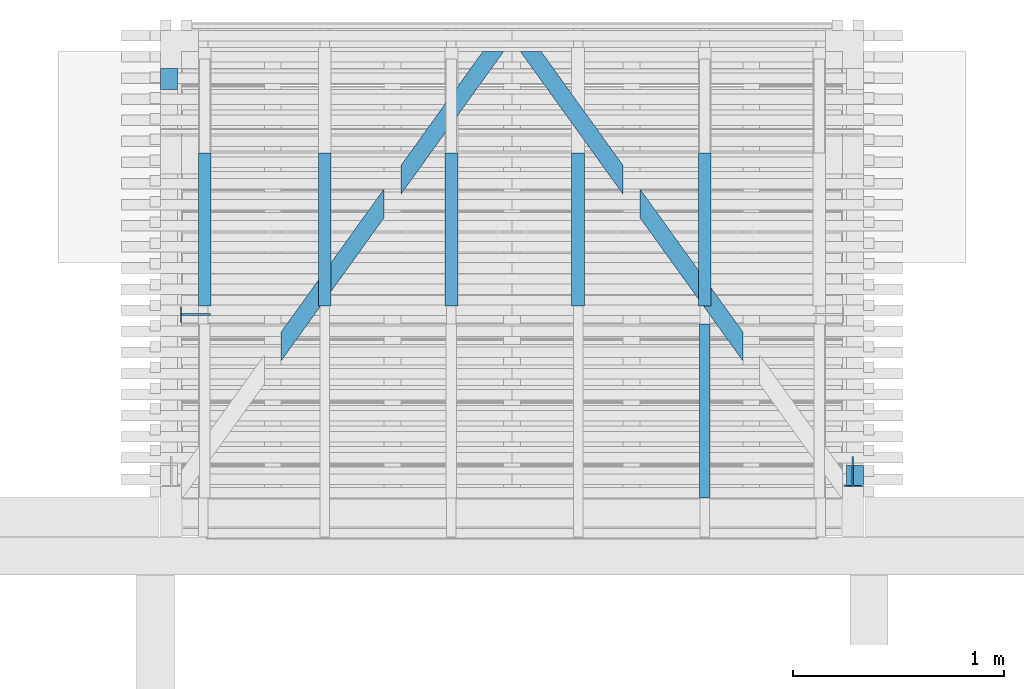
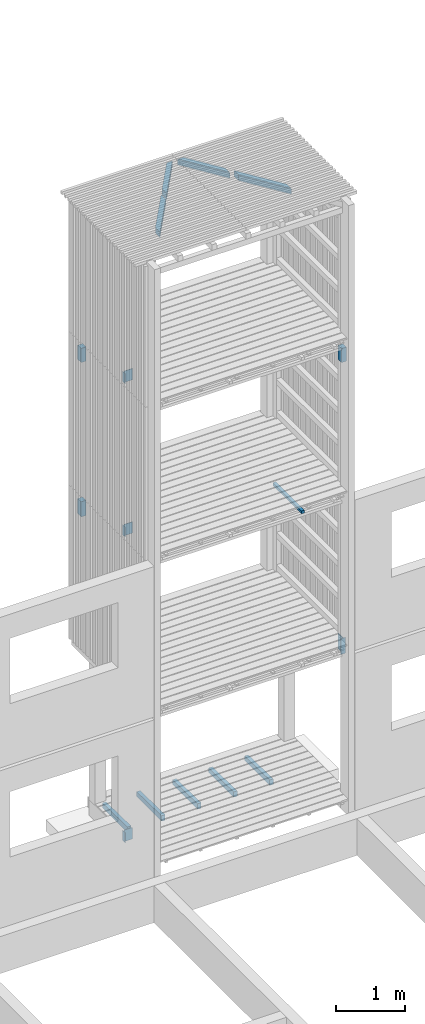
# One storey, part 165 of 182: 17 beams.
"""IFC2X3 building model written with IfcOpenShell, lengths in metres."""

from ifc_helpers import new_model, si_unit, frame, origin, place, context, project, spatial, faceted_brep, element, save


model = new_model("IFC2X3")

# Units and contexts
model_context = context("Model", 3, precision=1e-06, world=origin())
ifc_project = project(units=[si_unit("LENGTHUNIT", "METRE"), si_unit("PLANEANGLEUNIT", "RADIAN")], contexts=[model_context])

# Site, building, storey
site = spatial("IfcSite", under=ifc_project, CompositionType="ELEMENT")
building = spatial("IfcBuilding", under=site, CompositionType="ELEMENT")
storey = spatial("IfcBuildingStorey", under=building, Name="vs", CompositionType="ELEMENT", Elevation=-0.85)

# Beams
placement = place(None, origin())
beam_1_placement = place(placement, frame((16.614197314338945, 10.760077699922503, 7.576188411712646), z_axis=(0.0, 1.0, 0.0), x_axis=(0.0, 0.0, 1.0)))
element("IfcBeam", 1, at=beam_1_placement, inside=storey, Name="Support bardage", context=model_context, shape_type="Brep", body=[
    faceted_brep([(0.248811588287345, 0.039999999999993, -0.050000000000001), (0.248811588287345, 0.039999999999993, 0.05), (0.248811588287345, -0.04000000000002, 0.05), (0.248811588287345, -0.04000000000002, -0.050000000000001), (0.248811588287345, 0.039999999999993, -0.050000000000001), (0.248811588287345, -0.04000000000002, -0.050000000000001), (0.0, -0.04000000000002, -0.050000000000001), (0.0, 0.039999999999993, -0.050000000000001), (0.0, -0.04000000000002, -0.050000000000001), (0.248811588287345, -0.04000000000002, -0.050000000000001), (0.248811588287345, -0.04000000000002, 0.05), (0.0, -0.04000000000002, 0.05), (0.0, -0.04000000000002, 0.05), (0.248811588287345, -0.04000000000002, 0.05), (0.248811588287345, 0.039999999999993, 0.05), (0.0, 0.039999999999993, 0.05), (0.0, 0.039999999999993, 0.05), (0.248811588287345, 0.039999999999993, 0.05), (0.248811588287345, 0.039999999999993, -0.050000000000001), (0.0, 0.039999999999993, -0.050000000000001), (0.0, -0.04000000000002, 0.05), (0.0, 0.039999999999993, 0.05), (0.0, 0.039999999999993, -0.050000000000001), (0.0, -0.04000000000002, -0.050000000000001)], [[[0, 1, 2, 3]], [[4, 5, 6, 7]], [[8, 9, 10, 11]], [[12, 13, 14, 15]], [[16, 17, 18, 19]], [[20, 21, 22, 23]]]),
])
beam_2_placement = place(placement, frame((16.56319731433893, 10.781077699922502, 2.579999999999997), z_axis=(0.0, 0.0, 1.0), x_axis=(1.0, 0.0, 0.0)))
element("IfcBeam", 2, at=beam_2_placement, inside=storey, Name="Contre-usinage", context=model_context, shape_type="Brep", body=[
    faceted_brep([(0.037000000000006, -0.065999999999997, -0.14), (0.037000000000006, 0.071, -0.14), (0.045000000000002, 0.071, -0.14), (0.045000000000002, -0.065999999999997, -0.14), (0.082000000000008, -0.066000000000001, -0.14), (0.082000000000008, -0.071, -0.14), (0.0, -0.071, -0.14), (0.0, -0.066000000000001, -0.14), (0.045000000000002, 0.071, -0.14), (0.037000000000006, 0.071, -0.14), (0.037000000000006, 0.071, 0.14), (0.045000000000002, 0.071, 0.14), (0.045000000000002, -0.066000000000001, 0.14), (0.045000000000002, -0.065999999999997, -0.14), (0.045000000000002, 0.071, -0.14), (0.045000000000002, 0.071, 0.14), (0.082000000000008, -0.066000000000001, -0.14), (0.045000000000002, -0.065999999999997, -0.14), (0.045000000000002, -0.066000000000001, 0.14), (0.082000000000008, -0.066000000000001, 0.14), (0.082000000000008, -0.071, -0.14), (0.082000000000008, -0.066000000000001, -0.14), (0.082000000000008, -0.066000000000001, 0.14), (0.082000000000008, -0.071, 0.14), (0.0, -0.071, -0.14), (0.082000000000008, -0.071, -0.14), (0.082000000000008, -0.071, 0.14), (0.0, -0.071, 0.14), (0.0, -0.066000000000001, -0.14), (0.0, -0.071, -0.14), (0.0, -0.071, 0.14), (0.0, -0.066000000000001, 0.14), (0.037000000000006, -0.065999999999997, -0.14), (0.0, -0.066000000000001, -0.14), (0.0, -0.066000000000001, 0.14), (0.037000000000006, -0.066000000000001, 0.14), (0.037000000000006, 0.071, 0.14), (0.037000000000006, 0.071, -0.14), (0.037000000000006, -0.065999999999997, -0.14), (0.037000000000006, -0.066000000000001, 0.14), (0.082000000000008, -0.066000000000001, 0.14), (0.045000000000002, -0.066000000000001, 0.14), (0.045000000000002, 0.071, 0.14), (0.037000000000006, 0.071, 0.14), (0.037000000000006, -0.066000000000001, 0.14), (0.0, -0.066000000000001, 0.14), (0.0, -0.071, 0.14), (0.082000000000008, -0.071, 0.14)], [[[0, 1, 2, 3, 4, 5, 6, 7]], [[8, 9, 10, 11]], [[12, 13, 14, 15]], [[16, 17, 18, 19]], [[20, 21, 22, 23]], [[24, 25, 26, 27]], [[28, 29, 30, 31]], [[32, 33, 34, 35]], [[36, 37, 38, 39]], [[40, 41, 42, 43, 44, 45, 46, 47]]]),
])
beam_3_placement = place(placement, frame((14.70219731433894, 11.565077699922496, -0.091949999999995), z_axis=(0.0, 0.0, 1.0), x_axis=(0.0, 1.0, 0.0)))
element("IfcBeam", 3, at=beam_3_placement, inside=storey, Name="Solive", context=model_context, shape_type="Brep", body=[
    faceted_brep([(0.0, -0.029999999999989, -0.04805), (0.0, 0.029999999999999, -0.04805), (0.725000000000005, 0.029999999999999, -0.04805), (0.725000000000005, -0.030000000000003, -0.04805), (0.725000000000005, -0.029999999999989, 0.033549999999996), (0.0, -0.029999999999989, 0.048049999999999), (0.0, -0.029999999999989, -0.04805), (0.725000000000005, -0.030000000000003, -0.04805), (0.0, -0.029999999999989, 0.048049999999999), (0.725000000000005, -0.029999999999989, 0.033549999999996), (0.725000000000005, 0.029999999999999, 0.033549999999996), (0.0, 0.029999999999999, 0.048049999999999), (0.0, -0.029999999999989, 0.048049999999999), (0.0, 0.029999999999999, 0.048049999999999), (0.0, 0.029999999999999, -0.04805), (0.0, -0.029999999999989, -0.04805), (0.0, 0.029999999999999, -0.04805), (0.0, 0.029999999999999, 0.048049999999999), (0.725000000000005, 0.029999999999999, 0.033549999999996), (0.725000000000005, 0.029999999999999, -0.04805), (0.725000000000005, -0.029999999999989, 0.033549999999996), (0.725000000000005, -0.030000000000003, -0.04805), (0.725000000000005, 0.029999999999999, -0.04805), (0.725000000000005, 0.029999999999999, 0.033549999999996)], [[[0, 1, 2, 3]], [[4, 5, 6, 7]], [[8, 9, 10, 11]], [[12, 13, 14, 15]], [[16, 17, 18, 19]], [[20, 21, 22, 23]]]),
])
beam_4_placement = place(placement, frame((14.430059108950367, 12.116889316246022, 10.404999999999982), z_axis=(0.0, 0.0, 1.0), x_axis=(0.583951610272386, 0.811788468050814, 0.0)))
element("IfcBeam", 4, at=beam_4_placement, inside=storey, Name="Support bardage", context=model_context, shape_type="Brep", body=[
    faceted_brep([(0.775855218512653, 0.039999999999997, -0.050000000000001), (0.775855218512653, 0.039999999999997, 0.050000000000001), (0.833402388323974, -0.040000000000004, 0.050000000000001), (0.833402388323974, -0.040000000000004, -0.049999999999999), (0.833402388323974, -0.040000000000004, -0.049999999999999), (0.833402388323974, -0.040000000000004, 0.050000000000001), (4e-15, -0.040000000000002, 0.050000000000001), (4e-15, -0.040000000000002, -0.050000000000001), (0.775855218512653, 0.039999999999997, -0.050000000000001), (0.833402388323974, -0.040000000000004, -0.049999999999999), (4e-15, -0.040000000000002, -0.050000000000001), (0.111213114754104, 0.039999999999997, -0.050000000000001), (0.775855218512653, 0.039999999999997, 0.050000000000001), (0.775855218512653, 0.039999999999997, -0.050000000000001), (0.111213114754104, 0.039999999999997, -0.050000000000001), (0.111213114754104, 0.039999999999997, 0.050000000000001), (0.833402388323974, -0.040000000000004, 0.050000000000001), (0.775855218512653, 0.039999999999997, 0.050000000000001), (0.111213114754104, 0.039999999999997, 0.050000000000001), (4e-15, -0.040000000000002, 0.050000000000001), (0.111213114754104, 0.039999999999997, -0.050000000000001), (4e-15, -0.040000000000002, -0.050000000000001), (4e-15, -0.040000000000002, 0.050000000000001), (0.111213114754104, 0.039999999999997, 0.050000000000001)], [[[0, 1, 2, 3]], [[4, 5, 6, 7]], [[8, 9, 10, 11]], [[12, 13, 14, 15]], [[16, 17, 18, 19]], [[20, 21, 22, 23]]]),
])
beam_5_placement = place(placement, frame((14.102197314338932, 11.565077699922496, -0.091949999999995), z_axis=(0.0, 0.0, 1.0), x_axis=(0.0, 1.0, 0.0)))
element("IfcBeam", 5, at=beam_5_placement, inside=storey, Name="Solive", context=model_context, shape_type="Brep", body=[
    faceted_brep([(0.0, -0.030000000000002, -0.04805), (0.0, 0.030000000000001, -0.04805), (0.725000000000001, 0.030000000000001, -0.04805), (0.725000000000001, -0.030000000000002, -0.04805), (0.725000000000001, -0.030000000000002, 0.033549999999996), (0.0, -0.030000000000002, 0.048049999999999), (0.0, -0.030000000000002, -0.04805), (0.725000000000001, -0.030000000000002, -0.04805), (0.0, -0.030000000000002, 0.048049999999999), (0.725000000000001, -0.030000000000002, 0.033549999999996), (0.725000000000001, 0.030000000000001, 0.033549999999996), (0.0, 0.030000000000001, 0.048049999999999), (0.0, -0.030000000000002, 0.048049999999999), (0.0, 0.030000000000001, 0.048049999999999), (0.0, 0.030000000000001, -0.04805), (0.0, -0.030000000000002, -0.04805), (0.0, 0.030000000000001, -0.04805), (0.0, 0.030000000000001, 0.048049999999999), (0.725000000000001, 0.030000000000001, 0.033549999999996), (0.725000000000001, 0.030000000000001, -0.04805), (0.725000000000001, -0.030000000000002, 0.033549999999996), (0.725000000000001, -0.030000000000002, -0.04805), (0.725000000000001, 0.030000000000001, -0.04805), (0.725000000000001, 0.030000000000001, 0.033549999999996)], [[[0, 1, 2, 3]], [[4, 5, 6, 7]], [[8, 9, 10, 11]], [[12, 13, 14, 15]], [[16, 17, 18, 19]], [[20, 21, 22, 23]]]),
])
beam_6_placement = place(placement, frame((13.490197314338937, 11.525077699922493, 5.139999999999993), z_axis=(1.0, 0.0, 0.0), x_axis=(0.0, 0.0, 1.0)))
element("IfcBeam", 6, at=beam_6_placement, inside=storey, Name="Contre-usinage", context=model_context, shape_type="Brep", body=[
    faceted_brep([(0.2, 0.004000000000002, -0.066000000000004), (0.2, -0.004000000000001, -0.066000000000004), (0.174999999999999, -0.004000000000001, -0.066000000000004), (0.174999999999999, 0.004000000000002, -0.066000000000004), (0.174999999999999, -0.004000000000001, -0.066000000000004), (0.0, -0.004000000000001, -0.066000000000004), (0.0, -0.038, -0.066000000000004), (0.174999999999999, -0.038, -0.066000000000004), (0.174999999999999, 0.038000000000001, -0.066000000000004), (0.0, 0.038000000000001, -0.066000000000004), (0.0, 0.004000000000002, -0.066000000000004), (0.174999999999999, 0.004000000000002, -0.066000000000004), (0.2, 0.004000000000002, -0.066000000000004), (0.174999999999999, 0.004000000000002, -0.066000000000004), (0.0, 0.004000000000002, -0.066000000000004), (0.0, 0.004000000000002, 0.070999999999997), (0.2, 0.004000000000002, 0.070999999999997), (0.2, 0.004000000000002, 0.070999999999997), (0.0, 0.004000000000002, 0.070999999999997), (0.0, -0.004000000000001, 0.070999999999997), (0.2, -0.004000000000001, 0.070999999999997), (0.174999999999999, -0.038, -0.070999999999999), (0.0, -0.038, -0.070999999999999), (0.0, 0.038000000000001, -0.070999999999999), (0.174999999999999, 0.038000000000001, -0.070999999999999), (0.174999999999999, 0.038000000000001, -0.066000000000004), (0.174999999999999, 0.004000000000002, -0.066000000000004), (0.174999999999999, -0.004000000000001, -0.066000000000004), (0.174999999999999, -0.038, -0.066000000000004), (0.174999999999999, -0.038, -0.070999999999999), (0.174999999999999, 0.038000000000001, -0.070999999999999), (0.2, -0.004000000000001, 0.070999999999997), (0.0, -0.004000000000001, 0.070999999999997), (0.0, -0.004000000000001, -0.066000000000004), (0.174999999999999, -0.004000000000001, -0.066000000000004), (0.2, -0.004000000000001, -0.066000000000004), (0.2, -0.004000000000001, -0.066000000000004), (0.2, 0.004000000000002, -0.066000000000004), (0.2, 0.004000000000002, 0.070999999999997), (0.2, -0.004000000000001, 0.070999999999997), (0.174999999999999, -0.038, -0.070999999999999), (0.174999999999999, -0.038, -0.066000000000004), (0.0, -0.038, -0.066000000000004), (0.0, -0.038, -0.070999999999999), (0.0, -0.038, -0.066000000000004), (0.0, -0.004000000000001, -0.066000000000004), (0.0, -0.004000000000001, 0.070999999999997), (0.0, 0.004000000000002, 0.070999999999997), (0.0, 0.004000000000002, -0.066000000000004), (0.0, 0.038000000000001, -0.066000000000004), (0.0, 0.038000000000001, -0.070999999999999), (0.0, -0.038, -0.070999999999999), (0.174999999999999, 0.038000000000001, -0.066000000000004), (0.174999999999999, 0.038000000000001, -0.070999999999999), (0.0, 0.038000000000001, -0.070999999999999), (0.0, 0.038000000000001, -0.066000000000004)], [[[0, 1, 2, 3]], [[4, 5, 6, 7]], [[8, 9, 10, 11]], [[12, 13, 14, 15, 16]], [[17, 18, 19, 20]], [[21, 22, 23, 24]], [[25, 26, 27, 28, 29, 30]], [[31, 32, 33, 34, 35]], [[36, 37, 38, 39]], [[40, 41, 42, 43]], [[44, 45, 46, 47, 48, 49, 50, 51]], [[52, 53, 54, 55]]]),
])
beam_7_placement = place(placement, frame((13.490197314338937, 11.525077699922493, 7.839999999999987), z_axis=(1.0, 0.0, 0.0), x_axis=(0.0, 0.0, 1.0)))
element("IfcBeam", 7, at=beam_7_placement, inside=storey, Name="Contre-usinage", context=model_context, shape_type="Brep", body=[
    faceted_brep([(0.200000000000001, 0.004000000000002, -0.066000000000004), (0.200000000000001, -0.004000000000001, -0.066000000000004), (0.175000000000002, -0.004000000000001, -0.066000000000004), (0.175000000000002, 0.004000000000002, -0.066000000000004), (0.175000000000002, -0.004000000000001, -0.066000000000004), (2e-15, -0.004000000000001, -0.066000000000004), (2e-15, -0.038, -0.066000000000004), (0.175000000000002, -0.038, -0.066000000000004), (0.175000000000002, 0.038000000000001, -0.066000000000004), (2e-15, 0.038000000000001, -0.066000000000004), (2e-15, 0.004000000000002, -0.066000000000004), (0.175000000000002, 0.004000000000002, -0.066000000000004), (0.200000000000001, 0.004000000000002, -0.066000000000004), (0.175000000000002, 0.004000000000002, -0.066000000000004), (2e-15, 0.004000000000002, -0.066000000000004), (2e-15, 0.004000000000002, 0.070999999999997), (0.200000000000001, 0.004000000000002, 0.070999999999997), (0.200000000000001, 0.004000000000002, 0.070999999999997), (2e-15, 0.004000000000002, 0.070999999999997), (2e-15, -0.004000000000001, 0.070999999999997), (0.200000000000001, -0.004000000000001, 0.070999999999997), (0.175000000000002, -0.038, -0.070999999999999), (2e-15, -0.038, -0.070999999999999), (2e-15, 0.038000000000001, -0.070999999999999), (0.175000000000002, 0.038000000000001, -0.070999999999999), (0.175000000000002, 0.038000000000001, -0.066000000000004), (0.175000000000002, 0.004000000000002, -0.066000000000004), (0.175000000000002, -0.004000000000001, -0.066000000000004), (0.175000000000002, -0.038, -0.066000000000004), (0.175000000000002, -0.038, -0.070999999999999), (0.175000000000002, 0.038000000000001, -0.070999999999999), (0.200000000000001, -0.004000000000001, 0.070999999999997), (2e-15, -0.004000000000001, 0.070999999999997), (2e-15, -0.004000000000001, -0.066000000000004), (0.175000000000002, -0.004000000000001, -0.066000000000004), (0.200000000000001, -0.004000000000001, -0.066000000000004), (0.200000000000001, -0.004000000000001, -0.066000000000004), (0.200000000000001, 0.004000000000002, -0.066000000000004), (0.200000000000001, 0.004000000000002, 0.070999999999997), (0.200000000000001, -0.004000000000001, 0.070999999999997), (0.175000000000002, -0.038, -0.070999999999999), (0.175000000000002, -0.038, -0.066000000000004), (2e-15, -0.038, -0.066000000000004), (2e-15, -0.038, -0.070999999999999), (2e-15, -0.038, -0.066000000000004), (2e-15, -0.004000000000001, -0.066000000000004), (2e-15, -0.004000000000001, 0.070999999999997), (2e-15, 0.004000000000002, 0.070999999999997), (2e-15, 0.004000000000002, -0.066000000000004), (2e-15, 0.038000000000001, -0.066000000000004), (2e-15, 0.038000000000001, -0.070999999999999), (2e-15, -0.038, -0.070999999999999), (0.175000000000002, 0.038000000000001, -0.066000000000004), (0.175000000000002, 0.038000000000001, -0.070999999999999), (2e-15, 0.038000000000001, -0.070999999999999), (2e-15, 0.038000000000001, -0.066000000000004)], [[[0, 1, 2, 3]], [[4, 5, 6, 7]], [[8, 9, 10, 11]], [[12, 13, 14, 15, 16]], [[17, 18, 19, 20]], [[21, 22, 23, 24]], [[25, 26, 27, 28, 29, 30]], [[31, 32, 33, 34, 35]], [[36, 37, 38, 39]], [[40, 41, 42, 43]], [[44, 45, 46, 47, 48, 49, 50, 51]], [[52, 53, 54, 55]]]),
])
beam_8_placement = place(placement, frame((15.548335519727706, 12.116889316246, 10.404999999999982), z_axis=(0.0, 0.0, 1.0), x_axis=(-0.583951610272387, 0.811788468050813, 0.0)))
element("IfcBeam", 8, at=beam_8_placement, inside=storey, Name="Support bardage", context=model_context, shape_type="Brep", body=[
    faceted_brep([(0.0, 0.040000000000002, 0.050000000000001), (0.0, 0.040000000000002, -0.050000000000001), (0.1112131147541, -0.039999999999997, -0.050000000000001), (0.1112131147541, -0.039999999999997, 0.050000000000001), (0.775855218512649, -0.039999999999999, 0.050000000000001), (0.83340238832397, 0.040000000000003, 0.050000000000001), (0.0, 0.040000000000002, 0.050000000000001), (0.1112131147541, -0.039999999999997, 0.050000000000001), (0.83340238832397, 0.040000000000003, -0.049999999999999), (0.775855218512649, -0.039999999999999, -0.050000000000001), (0.1112131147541, -0.039999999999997, -0.050000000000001), (0.0, 0.040000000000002, -0.050000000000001), (0.0, 0.040000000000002, 0.050000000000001), (0.83340238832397, 0.040000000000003, 0.050000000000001), (0.83340238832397, 0.040000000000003, -0.049999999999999), (0.0, 0.040000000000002, -0.050000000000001), (0.83340238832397, 0.040000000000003, 0.050000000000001), (0.775855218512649, -0.039999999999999, 0.050000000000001), (0.775855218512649, -0.039999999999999, -0.050000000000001), (0.83340238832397, 0.040000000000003, -0.049999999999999), (0.1112131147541, -0.039999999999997, -0.050000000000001), (0.775855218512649, -0.039999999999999, -0.050000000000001), (0.775855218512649, -0.039999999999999, 0.050000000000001), (0.1112131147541, -0.039999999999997, 0.050000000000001)], [[[0, 1, 2, 3]], [[4, 5, 6, 7]], [[8, 9, 10, 11]], [[12, 13, 14, 15]], [[16, 17, 18, 19]], [[20, 21, 22, 23]]]),
])
beam_9_placement = place(placement, frame((13.490197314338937, 11.525077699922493, -0.243899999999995), z_axis=(1.0, 0.0, 0.0), x_axis=(0.0, 0.0, 1.0)))
element("IfcBeam", 9, at=beam_9_placement, inside=storey, Name="Contre-usinage", context=model_context, shape_type="Brep", body=[
    faceted_brep([(0.2, 0.004000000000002, -0.066000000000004), (0.2, -0.004000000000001, -0.066000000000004), (0.175, -0.004000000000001, -0.066000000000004), (0.175, 0.004000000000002, -0.066000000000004), (0.175, -0.004000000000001, -0.066000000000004), (0.0, -0.004000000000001, -0.066000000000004), (0.0, -0.038, -0.066000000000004), (0.175, -0.038, -0.066000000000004), (0.175, 0.038000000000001, -0.066000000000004), (0.0, 0.038000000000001, -0.066000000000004), (0.0, 0.004000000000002, -0.066000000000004), (0.175, 0.004000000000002, -0.066000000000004), (0.2, 0.004000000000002, -0.066000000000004), (0.175, 0.004000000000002, -0.066000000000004), (0.0, 0.004000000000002, -0.066000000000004), (0.0, 0.004000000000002, 0.070999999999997), (0.2, 0.004000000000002, 0.070999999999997), (0.2, 0.004000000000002, 0.070999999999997), (0.0, 0.004000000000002, 0.070999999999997), (0.0, -0.004000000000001, 0.070999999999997), (0.2, -0.004000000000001, 0.070999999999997), (0.175, -0.038, -0.070999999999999), (0.0, -0.038, -0.070999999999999), (0.0, 0.038000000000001, -0.070999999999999), (0.175, 0.038000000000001, -0.070999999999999), (0.2, -0.004000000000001, -0.066000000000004), (0.2, 0.004000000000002, -0.066000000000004), (0.2, 0.004000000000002, 0.070999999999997), (0.2, -0.004000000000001, 0.070999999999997), (0.2, -0.004000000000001, 0.070999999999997), (0.0, -0.004000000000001, 0.070999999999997), (0.0, -0.004000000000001, -0.066000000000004), (0.175, -0.004000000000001, -0.066000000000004), (0.2, -0.004000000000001, -0.066000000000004), (0.175, 0.038000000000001, -0.066000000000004), (0.175, 0.004000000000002, -0.066000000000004), (0.175, -0.004000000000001, -0.066000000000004), (0.175, -0.038, -0.066000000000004), (0.175, -0.038, -0.070999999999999), (0.175, 0.038000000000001, -0.070999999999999), (0.0, -0.038, -0.066000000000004), (0.0, -0.004000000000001, -0.066000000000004), (0.0, -0.004000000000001, 0.070999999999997), (0.0, 0.004000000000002, 0.070999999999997), (0.0, 0.004000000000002, -0.066000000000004), (0.0, 0.038000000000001, -0.066000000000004), (0.0, 0.038000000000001, -0.070999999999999), (0.0, -0.038, -0.070999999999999), (0.175, -0.038, -0.070999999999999), (0.175, -0.038, -0.066000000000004), (0.0, -0.038, -0.066000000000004), (0.0, -0.038, -0.070999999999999), (0.175, 0.038000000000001, -0.066000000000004), (0.175, 0.038000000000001, -0.070999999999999), (0.0, 0.038000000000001, -0.070999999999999), (0.0, 0.038000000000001, -0.066000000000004)], [[[0, 1, 2, 3]], [[4, 5, 6, 7]], [[8, 9, 10, 11]], [[12, 13, 14, 15, 16]], [[17, 18, 19, 20]], [[21, 22, 23, 24]], [[25, 26, 27, 28]], [[29, 30, 31, 32, 33]], [[34, 35, 36, 37, 38, 39]], [[40, 41, 42, 43, 44, 45, 46, 47]], [[48, 49, 50, 51]], [[52, 53, 54, 55]]]),
])
beam_10_placement = place(placement, frame((15.90219731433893, 10.655077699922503, 5.217999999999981), z_axis=(0.0, 0.0, 1.0), x_axis=(0.0, 1.0, 0.0)))
element("IfcBeam", 10, at=beam_10_placement, inside=storey, Name="Calage", context=model_context, shape_type="Brep", body=[
    faceted_brep([(0.824999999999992, -0.025000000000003, 0.024999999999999), (0.824999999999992, 0.024999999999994, 0.024999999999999), (-1e-15, 0.024999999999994, 0.024999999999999), (-1e-15, -0.025000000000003, 0.024999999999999), (-1e-15, 0.024999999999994, 0.024999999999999), (0.824999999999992, 0.024999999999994, 0.024999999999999), (0.824999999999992, 0.024999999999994, -0.025), (-1e-15, 0.024999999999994, -0.025), (0.824999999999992, 0.024999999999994, 0.024999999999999), (0.824999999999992, -0.025000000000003, 0.024999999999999), (0.824999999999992, -0.025000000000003, -0.025), (0.824999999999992, 0.024999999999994, -0.025), (0.824999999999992, -0.025000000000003, -0.025), (0.824999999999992, -0.025000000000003, 0.024999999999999), (-1e-15, -0.025000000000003, 0.024999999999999), (-1e-15, -0.025000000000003, -0.025), (-1e-15, 0.024999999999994, -0.025), (0.824999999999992, 0.024999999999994, -0.025), (0.824999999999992, -0.025000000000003, -0.025), (-1e-15, -0.025000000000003, -0.025), (-1e-15, 0.024999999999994, 0.024999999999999), (-1e-15, 0.024999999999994, -0.025), (-1e-15, -0.025000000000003, -0.025), (-1e-15, -0.025000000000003, 0.024999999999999)], [[[0, 1, 2, 3]], [[4, 5, 6, 7]], [[8, 9, 10, 11]], [[12, 13, 14, 15]], [[16, 17, 18, 19]], [[20, 21, 22, 23]]]),
])
beam_11_placement = place(placement, frame((15.302197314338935, 11.565077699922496, -0.091949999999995), z_axis=(0.0, 0.0, 1.0), x_axis=(0.0, 1.0, 0.0)))
element("IfcBeam", 11, at=beam_11_placement, inside=storey, Name="Solive", context=model_context, shape_type="Brep", body=[
    faceted_brep([(0.0, -0.030000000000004, -0.04805), (0.0, 0.029999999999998, -0.04805), (0.725000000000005, 0.029999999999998, -0.04805), (0.725000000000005, -0.030000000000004, -0.04805), (0.725000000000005, -0.030000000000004, 0.033549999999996), (0.0, -0.030000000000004, 0.048049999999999), (0.0, -0.030000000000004, -0.04805), (0.725000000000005, -0.030000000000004, -0.04805), (0.0, -0.030000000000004, 0.048049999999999), (0.725000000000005, -0.030000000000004, 0.033549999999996), (0.725000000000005, 0.029999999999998, 0.033549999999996), (0.0, 0.029999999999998, 0.048049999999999), (0.0, -0.030000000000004, 0.048049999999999), (0.0, 0.029999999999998, 0.048049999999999), (0.0, 0.029999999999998, -0.04805), (0.0, -0.030000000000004, -0.04805), (0.0, 0.029999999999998, -0.04805), (0.0, 0.029999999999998, 0.048049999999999), (0.725000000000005, 0.029999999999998, 0.033549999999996), (0.725000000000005, 0.029999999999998, -0.04805), (0.725000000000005, -0.030000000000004, 0.033549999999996), (0.725000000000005, -0.030000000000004, -0.04805), (0.725000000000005, 0.029999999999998, -0.04805), (0.725000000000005, 0.029999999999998, 0.033549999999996)], [[[0, 1, 2, 3]], [[4, 5, 6, 7]], [[8, 9, 10, 11]], [[12, 13, 14, 15]], [[16, 17, 18, 19]], [[20, 21, 22, 23]]]),
])
beam_12_placement = place(placement, frame((13.534197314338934, 11.565077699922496, -0.091949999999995), z_axis=(0.0, 0.0, 1.0), x_axis=(0.0, 1.0, 0.0)))
element("IfcBeam", 12, at=beam_12_placement, inside=storey, Name="Solive", context=model_context, shape_type="Brep", body=[
    faceted_brep([(0.0, -0.030000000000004, -0.04805), (0.0, 0.029999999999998, -0.04805), (0.725000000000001, 0.029999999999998, -0.04805), (0.725000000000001, -0.030000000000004, -0.04805), (0.725000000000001, -0.030000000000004, 0.033549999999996), (0.0, -0.030000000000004, 0.048049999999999), (0.0, -0.030000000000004, -0.04805), (0.725000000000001, -0.030000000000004, -0.04805), (0.0, -0.030000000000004, 0.048049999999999), (0.725000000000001, -0.030000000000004, 0.033549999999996), (0.725000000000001, 0.029999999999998, 0.033549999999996), (0.0, 0.029999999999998, 0.048049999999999), (0.0, -0.030000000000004, 0.048049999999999), (0.0, 0.029999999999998, 0.048049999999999), (0.0, 0.029999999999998, -0.04805), (0.0, -0.030000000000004, -0.04805), (0.0, 0.029999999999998, -0.04805), (0.0, 0.029999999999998, 0.048049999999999), (0.725000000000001, 0.029999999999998, 0.033549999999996), (0.725000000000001, 0.029999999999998, -0.04805), (0.725000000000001, -0.030000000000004, 0.033549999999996), (0.725000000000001, -0.030000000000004, -0.04805), (0.725000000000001, 0.029999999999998, -0.04805), (0.725000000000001, 0.029999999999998, 0.033549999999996)], [[[0, 1, 2, 3]], [[4, 5, 6, 7]], [[8, 9, 10, 11]], [[12, 13, 14, 15]], [[16, 17, 18, 19]], [[20, 21, 22, 23]]]),
])
beam_13_placement = place(placement, frame((16.115002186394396, 11.32912975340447, 10.404999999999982), z_axis=(0.0, 0.0, 1.0), x_axis=(-0.583951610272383, 0.811788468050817, 0.0)))
element("IfcBeam", 13, at=beam_13_placement, inside=storey, Name="Support bardage", context=model_context, shape_type="Brep", body=[
    faceted_brep([(0.111213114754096, -0.040000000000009, -0.050000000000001), (0.111213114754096, -0.040000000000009, 0.050000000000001), (-1e-14, 0.039999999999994, 0.050000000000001), (-1e-14, 0.039999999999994, -0.050000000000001), (0.833402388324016, 0.040000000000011, -0.050000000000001), (0.94461550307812, -0.039999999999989, -0.050000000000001), (0.111213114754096, -0.040000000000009, -0.050000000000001), (-1e-14, 0.039999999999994, -0.050000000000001), (0.833402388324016, 0.040000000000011, 0.050000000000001), (0.833402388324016, 0.040000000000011, -0.050000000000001), (-1e-14, 0.039999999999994, -0.050000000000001), (-1e-14, 0.039999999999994, 0.050000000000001), (0.111213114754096, -0.040000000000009, -0.050000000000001), (0.94461550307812, -0.039999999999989, -0.050000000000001), (0.94461550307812, -0.039999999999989, 0.050000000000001), (0.111213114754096, -0.040000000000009, 0.050000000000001), (0.111213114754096, -0.040000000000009, 0.050000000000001), (0.94461550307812, -0.039999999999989, 0.050000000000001), (0.833402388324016, 0.040000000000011, 0.050000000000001), (-1e-14, 0.039999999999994, 0.050000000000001), (0.94461550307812, -0.039999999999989, -0.050000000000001), (0.833402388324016, 0.040000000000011, -0.050000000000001), (0.833402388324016, 0.040000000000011, 0.050000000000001), (0.94461550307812, -0.039999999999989, 0.050000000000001)], [[[0, 1, 2, 3]], [[4, 5, 6, 7]], [[8, 9, 10, 11]], [[12, 13, 14, 15]], [[16, 17, 18, 19]], [[20, 21, 22, 23]]]),
])
beam_14_placement = place(placement, frame((15.90219731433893, 11.565077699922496, -0.091949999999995), z_axis=(0.0, 0.0, 1.0), x_axis=(0.0, 1.0, 0.0)))
element("IfcBeam", 14, at=beam_14_placement, inside=storey, Name="Solive", context=model_context, shape_type="Brep", body=[
    faceted_brep([(0.0, -0.029999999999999, -0.04805), (0.0, 0.030000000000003, -0.04805), (0.725000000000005, 0.030000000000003, -0.04805), (0.725000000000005, -0.029999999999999, -0.04805), (0.725000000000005, -0.029999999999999, 0.033549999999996), (0.0, -0.029999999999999, 0.048049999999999), (0.0, -0.029999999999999, -0.04805), (0.725000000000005, -0.029999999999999, -0.04805), (0.0, -0.029999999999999, 0.048049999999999), (0.725000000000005, -0.029999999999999, 0.033549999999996), (0.725000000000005, 0.030000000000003, 0.033549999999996), (0.0, 0.030000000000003, 0.048049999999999), (0.0, -0.029999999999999, 0.048049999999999), (0.0, 0.030000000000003, 0.048049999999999), (0.0, 0.030000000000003, -0.04805), (0.0, -0.029999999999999, -0.04805), (0.0, 0.030000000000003, -0.04805), (0.0, 0.030000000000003, 0.048049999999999), (0.725000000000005, 0.030000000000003, 0.033549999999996), (0.725000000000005, 0.030000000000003, -0.04805), (0.725000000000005, -0.029999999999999, 0.033549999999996), (0.725000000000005, -0.029999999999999, -0.04805), (0.725000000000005, 0.030000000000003, -0.04805), (0.725000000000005, 0.030000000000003, 0.033549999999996)], [[[0, 1, 2, 3]], [[4, 5, 6, 7]], [[8, 9, 10, 11]], [[12, 13, 14, 15]], [[16, 17, 18, 19]], [[20, 21, 22, 23]]]),
])
beam_15_placement = place(placement, frame((13.863392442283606, 11.329129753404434, 10.404999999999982), z_axis=(0.0, 0.0, 1.0), x_axis=(0.583951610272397, 0.811788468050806, 0.0)))
element("IfcBeam", 15, at=beam_15_placement, inside=storey, Name="Support bardage", context=model_context, shape_type="Brep", body=[
    faceted_brep([(0.833402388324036, -0.040000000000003, 0.050000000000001), (0.833402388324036, -0.040000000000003, -0.050000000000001), (0.944615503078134, 0.039999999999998, -0.050000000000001), (0.944615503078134, 0.039999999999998, 0.050000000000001), (0.833402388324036, -0.040000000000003, -0.050000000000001), (0.833402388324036, -0.040000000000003, 0.050000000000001), (3e-15, -0.040000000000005, 0.050000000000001), (3e-15, -0.040000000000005, -0.050000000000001), (0.944615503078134, 0.039999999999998, -0.050000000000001), (0.833402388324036, -0.040000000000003, -0.050000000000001), (3e-15, -0.040000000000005, -0.050000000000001), (0.111213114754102, 0.039999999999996, -0.050000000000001), (0.944615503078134, 0.039999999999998, 0.050000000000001), (0.944615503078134, 0.039999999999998, -0.050000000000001), (0.111213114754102, 0.039999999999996, -0.050000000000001), (0.111213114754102, 0.039999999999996, 0.050000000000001), (0.833402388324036, -0.040000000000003, 0.050000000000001), (0.944615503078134, 0.039999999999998, 0.050000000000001), (0.111213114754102, 0.039999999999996, 0.050000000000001), (3e-15, -0.040000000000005, 0.050000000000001), (0.111213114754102, 0.039999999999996, -0.050000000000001), (3e-15, -0.040000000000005, -0.050000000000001), (3e-15, -0.040000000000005, 0.050000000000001), (0.111213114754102, 0.039999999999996, 0.050000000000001)], [[[0, 1, 2, 3]], [[4, 5, 6, 7]], [[8, 9, 10, 11]], [[12, 13, 14, 15]], [[16, 17, 18, 19]], [[20, 21, 22, 23]]]),
])
beam_16_placement = place(placement, frame((13.364197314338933, 12.640077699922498, 7.576188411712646), z_axis=(0.0, -1.0, 0.0), x_axis=(0.0, 0.0, 1.0)))
element("IfcBeam", 16, at=beam_16_placement, inside=storey, Name="Support bardage", context=model_context, shape_type="Brep", body=[
    faceted_brep([(0.248811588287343, -0.040000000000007, -0.050000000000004), (0.248811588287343, 0.039999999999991, -0.050000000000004), (0.248811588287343, 0.039999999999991, 0.049999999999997), (0.248811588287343, -0.040000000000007, 0.049999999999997), (0.248811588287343, 0.039999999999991, 0.049999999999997), (0.248811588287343, 0.039999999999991, -0.050000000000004), (0.0, 0.039999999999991, -0.050000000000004), (0.0, 0.039999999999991, 0.049999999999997), (0.248811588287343, 0.039999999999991, -0.050000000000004), (0.248811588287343, -0.040000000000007, -0.050000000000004), (0.0, -0.040000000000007, -0.050000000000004), (0.0, 0.039999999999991, -0.050000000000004), (0.248811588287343, -0.040000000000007, -0.050000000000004), (0.248811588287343, -0.040000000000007, 0.049999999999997), (0.0, -0.040000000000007, 0.049999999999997), (0.0, -0.040000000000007, -0.050000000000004), (0.248811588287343, -0.040000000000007, 0.049999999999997), (0.248811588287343, 0.039999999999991, 0.049999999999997), (0.0, 0.039999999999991, 0.049999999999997), (0.0, -0.040000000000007, 0.049999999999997), (0.0, -0.040000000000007, -0.050000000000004), (0.0, -0.040000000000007, 0.049999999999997), (0.0, 0.039999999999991, 0.049999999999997), (0.0, 0.039999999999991, -0.050000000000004)], [[[0, 1, 2, 3]], [[4, 5, 6, 7]], [[8, 9, 10, 11]], [[12, 13, 14, 15]], [[16, 17, 18, 19]], [[20, 21, 22, 23]]]),
])
beam_17_placement = place(placement, frame((13.364197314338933, 12.640077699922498, 4.85796194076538), z_axis=(0.0, -1.0, 0.0), x_axis=(0.0, 0.0, 1.0)))
element("IfcBeam", 17, at=beam_17_placement, inside=storey, Name="Support bardage", context=model_context, shape_type="Brep", body=[
    faceted_brep([(0.267038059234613, -0.040000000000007, -0.050000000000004), (0.267038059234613, 0.039999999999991, -0.050000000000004), (0.267038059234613, 0.039999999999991, 0.049999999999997), (0.267038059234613, -0.040000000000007, 0.049999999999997), (0.267038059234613, 0.039999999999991, 0.049999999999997), (0.267038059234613, 0.039999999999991, -0.050000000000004), (0.0, 0.039999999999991, -0.050000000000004), (0.0, 0.039999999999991, 0.049999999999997), (0.267038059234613, -0.040000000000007, 0.049999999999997), (0.267038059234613, 0.039999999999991, 0.049999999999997), (0.0, 0.039999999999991, 0.049999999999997), (0.0, -0.040000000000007, 0.049999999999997), (0.267038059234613, 0.039999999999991, -0.050000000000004), (0.267038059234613, -0.040000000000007, -0.050000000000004), (0.0, -0.040000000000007, -0.050000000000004), (0.0, 0.039999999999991, -0.050000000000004), (0.267038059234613, -0.040000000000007, -0.050000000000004), (0.267038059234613, -0.040000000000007, 0.049999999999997), (0.0, -0.040000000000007, 0.049999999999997), (0.0, -0.040000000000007, -0.050000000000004), (0.0, 0.039999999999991, -0.050000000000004), (0.0, -0.040000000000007, -0.050000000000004), (0.0, -0.040000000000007, 0.049999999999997), (0.0, 0.039999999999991, 0.049999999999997)], [[[0, 1, 2, 3]], [[4, 5, 6, 7]], [[8, 9, 10, 11]], [[12, 13, 14, 15]], [[16, 17, 18, 19]], [[20, 21, 22, 23]]]),
])

save(model, "model.ifc")
